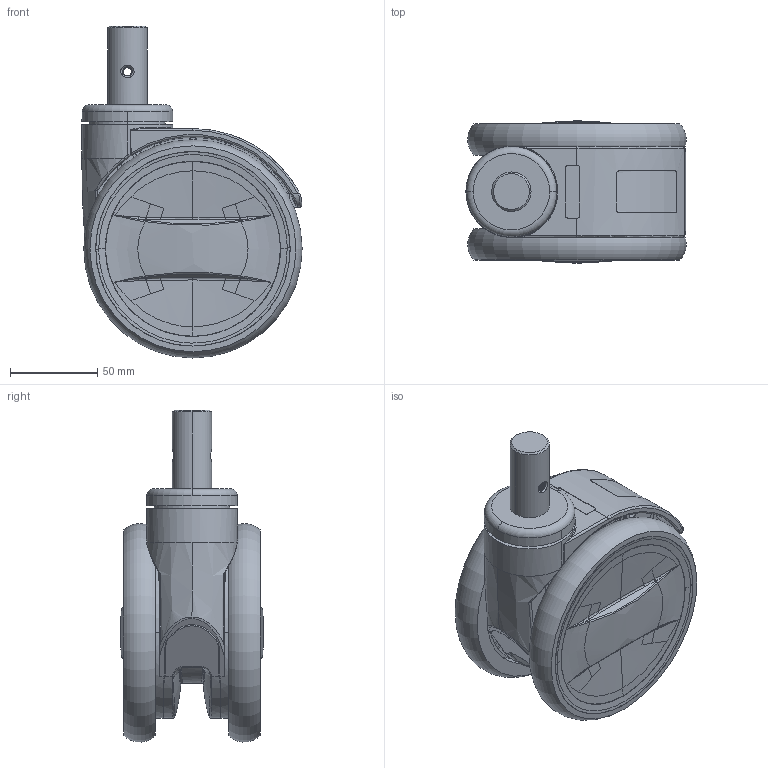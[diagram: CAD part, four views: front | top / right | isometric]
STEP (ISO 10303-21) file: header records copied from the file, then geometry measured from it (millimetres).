
FILE_DESCRIPTION(/* description */ (''),/* implementation_level */ '2;1');
FILE_NAME(/* name */ '80T17_5_F.stp',/* time_stamp */ '2022-10-17T15:59:00+08:00',/* author */ (''),/* organization */ (''),/* preprocessor_version */ 'ST-DEVELOPER v14',/* originating_system */ 'SIEMENS PLM Software NX 8.0',/* authorisation */ '');
FILE_SCHEMA (('AUTOMOTIVE_DESIGN { 1 0 10303 214 3 1 1 1 }'));
Length unit declared in the file: millimetre
Products named in the file (1): 80T17_5_F
Bounding box: 126.03 x 81.47 x 189.97 mm (x, y, z)
Volume: 546597.3 mm3; surface area: 271432.6 mm2
Topology: 3 solids, 31 shells, 3819 faces, 11066 edges, 7346 vertices
Faces by surface type: plane 1613, cylinder 1401, bspline 385, cone 319, torus 75, sphere 26
Full cylindrical faces by diameter (mm): 111.247 x2
Entity records: 161256 total; most frequent: CARTESIAN_POINT 66462, ORIENTED_EDGE 22088, DIRECTION 17185, EDGE_CURVE 11044, VERTEX_POINT 7344, AXIS2_PLACEMENT_3D 6262, LINE 4661, VECTOR 4661
